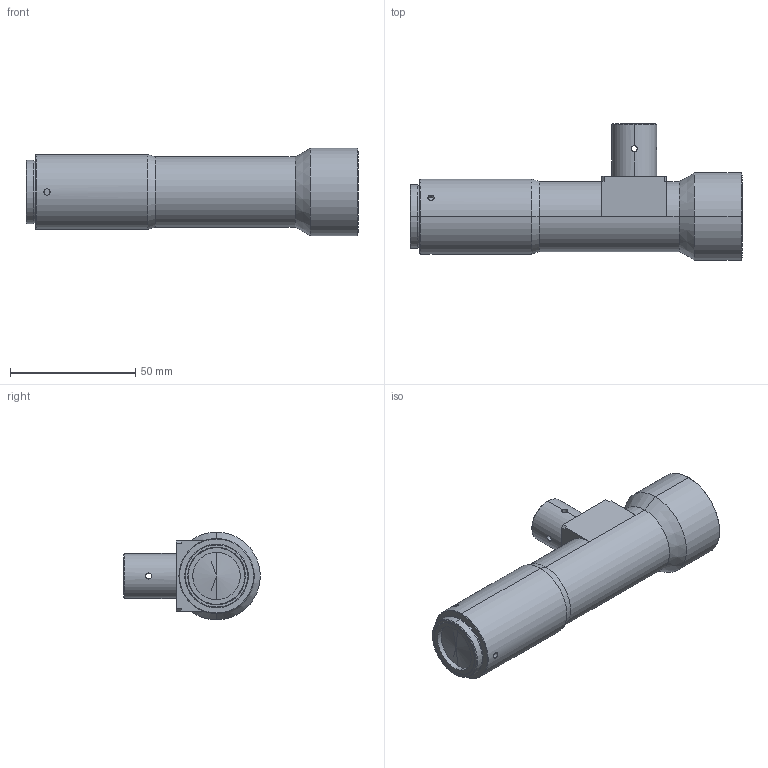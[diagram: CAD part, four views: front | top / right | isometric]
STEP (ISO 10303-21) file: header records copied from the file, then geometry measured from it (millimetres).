
FILE_DESCRIPTION (( 'STEP AP203' ), '1' );
FILE_NAME ('WWK15-110C-111.STEP', '2017-06-13T08:52:30', ( 'frank' ), ( '' ), 'SwSTEP 2.0', 'SolidWorks 2012', '' );
FILE_SCHEMA (( 'CONFIG_CONTROL_DESIGN' ));
Length unit declared in the file: millimetre
Products named in the file (1): WWK15-110C-111
Bounding box: 132.66 x 54.6 x 35 mm (x, y, z)
Volume: 98811.4 mm3; surface area: 17549.4 mm2
Topology: 1 solids, 3 shells, 134 faces, 311 edges, 188 vertices
Faces by surface type: cylinder 65, cone 38, plane 31
Entity records: 4335 total; most frequent: CARTESIAN_POINT 1244, DIRECTION 647, ORIENTED_EDGE 598, EDGE_CURVE 299, AXIS2_PLACEMENT_3D 258, VERTEX_POINT 188, EDGE_LOOP 159, FACE_OUTER_BOUND 134
